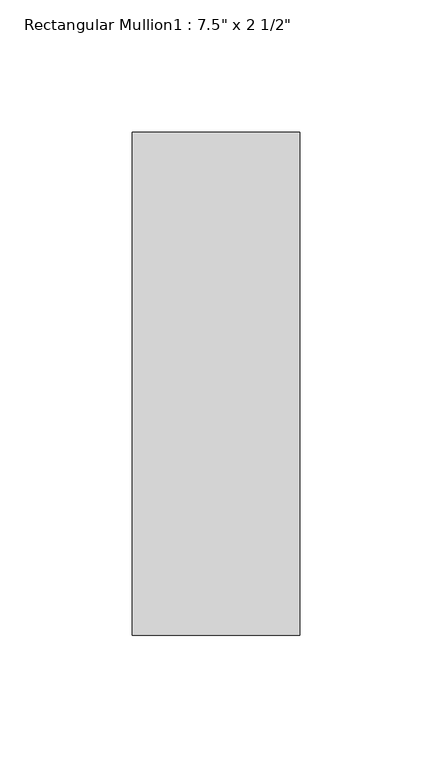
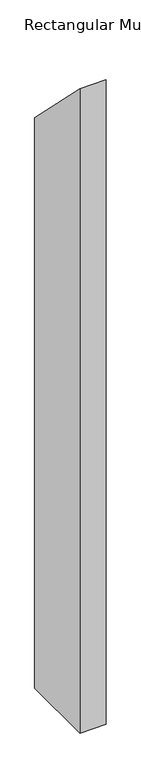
"""IFC4 building model written with IfcOpenShell, lengths in millimetres: member geometry."""

from ifc_helpers import new_model, si_unit, frame, origin, place, context, project, spatial, polyline, outline, extrude, source, transform, mapped, element, save


def member_41f014c1(model_context):
    return source(origin(), model_context, "Body", "SweptSolid", [
        extrude(outline(polyline([(-25.4, 25.4), (165.1, -165.1), (165.1, -1626.4033425), (-25.4, -1626.4033425), (-25.4, 25.4)])), frame((-63.5, 0.0, 0.0), z_axis=(1.0, 0.0, 0.0), x_axis=(0.0, 1.0, 0.0)), (0.0, 0.0, 1.0), 63.5),
    ])


if __name__ == "__main__":
    model = new_model("IFC4")
    model_context = context("Model", 3, world=origin())
    ifc_project = project(units=[si_unit("LENGTHUNIT", "METRE", prefix="MILLI")], contexts=[model_context])
    site = spatial("IfcSite", under=ifc_project)
    building = spatial("IfcBuilding", under=site)
    placement = place(None, origin())
    member_shape = member_41f014c1(model_context)
    element("IfcMember", 1, ObjectType="Rectangular Mullion1 : 7.5\" x 2 1/2\"", at=placement, inside=building, context=model_context, shape_type="MappedRepresentation", body=[
        mapped(member_shape, transform((0.0, 0.0, 0.0), x_axis=(1.0, 0.0, 0.0), y_axis=(0.0, 1.0, 0.0), z_axis=(0.0, 0.0, 1.0))),
    ])
    save(model, "model.ifc")
